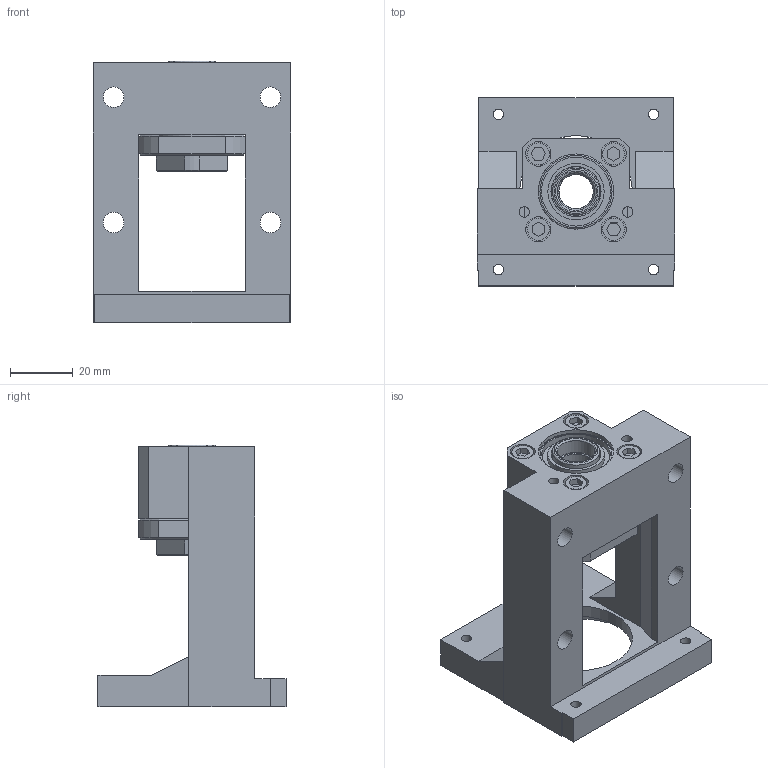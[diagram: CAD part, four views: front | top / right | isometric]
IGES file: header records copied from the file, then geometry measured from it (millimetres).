
Start section: SolidWorks IGES file using analytic representation for surfaces
Bounding box: 63 x 60 x 83.5 mm (x, y, z)
Surface area: 31572.7 mm2 (no closed solid volume)
Topology: 0 solids, 0 shells, 187 faces, 869 edges, 803 vertices
Faces by surface type: bspline 104, revolution 83
